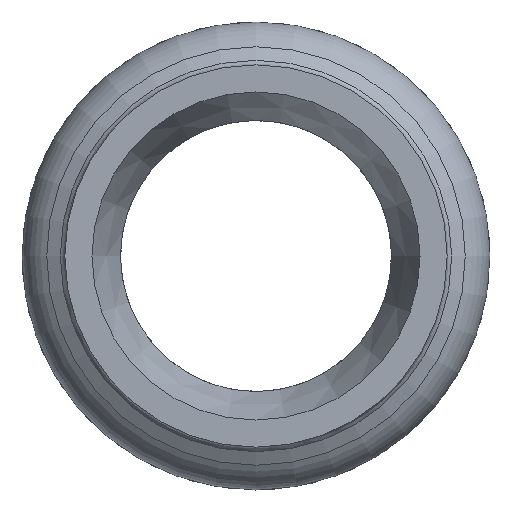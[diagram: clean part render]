
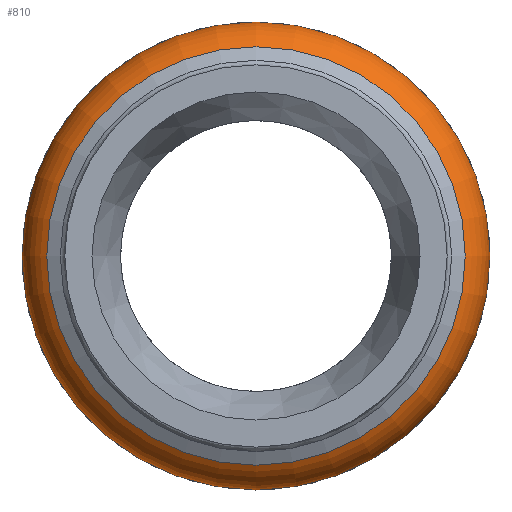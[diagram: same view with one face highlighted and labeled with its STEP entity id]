
A CAD part, left-side view. The second image highlights one B-rep face of the part: STEP entity #810.
In plain terms, the highlighted toroidal (fillet/blend) face has major radius 10.2 mm and minor radius 2.75 mm.
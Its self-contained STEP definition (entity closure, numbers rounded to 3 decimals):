
#628=CARTESIAN_POINT('',(-22.152,10.94,0.0));
#629=VERTEX_POINT('',#628);
#630=CARTESIAN_POINT('',(-22.152,0.0,0.0));
#631=DIRECTION('',(1.0,0.0,0.0));
#632=DIRECTION('',(0.0,-1.0,0.0));
#633=AXIS2_PLACEMENT_3D('',#630,#631,#632);
#634=CIRCLE('',#633,10.94);
#635=EDGE_CURVE('',#629,#629,#634,.T.);
#772=CARTESIAN_POINT('',(-27.182,11.575,0.0));
#773=VERTEX_POINT('',#772);
#774=CARTESIAN_POINT('',(-27.182,0.0,0.0));
#775=DIRECTION('',(1.0,0.0,0.0));
#776=DIRECTION('',(0.0,1.0,0.0));
#777=AXIS2_PLACEMENT_3D('',#774,#775,#776);
#778=CIRCLE('',#777,11.575);
#779=EDGE_CURVE('',#773,#773,#778,.T.);
#799=CARTESIAN_POINT('',(-24.8,0.0,0.0));
#800=DIRECTION('',(1.0,0.0,0.0));
#801=DIRECTION('',(0.0,0.0,-1.0));
#802=AXIS2_PLACEMENT_3D('',#799,#800,#801);
#803=TOROIDAL_SURFACE('',#802,10.2,2.75);
#804=ORIENTED_EDGE('',*,*,#779,.T.);
#805=EDGE_LOOP('',(#804));
#806=FACE_OUTER_BOUND('',#805,.T.);
#807=ORIENTED_EDGE('',*,*,#635,.F.);
#808=EDGE_LOOP('',(#807));
#809=FACE_BOUND('',#808,.T.);
#810=ADVANCED_FACE('',(#806,#809),#803,.T.);
